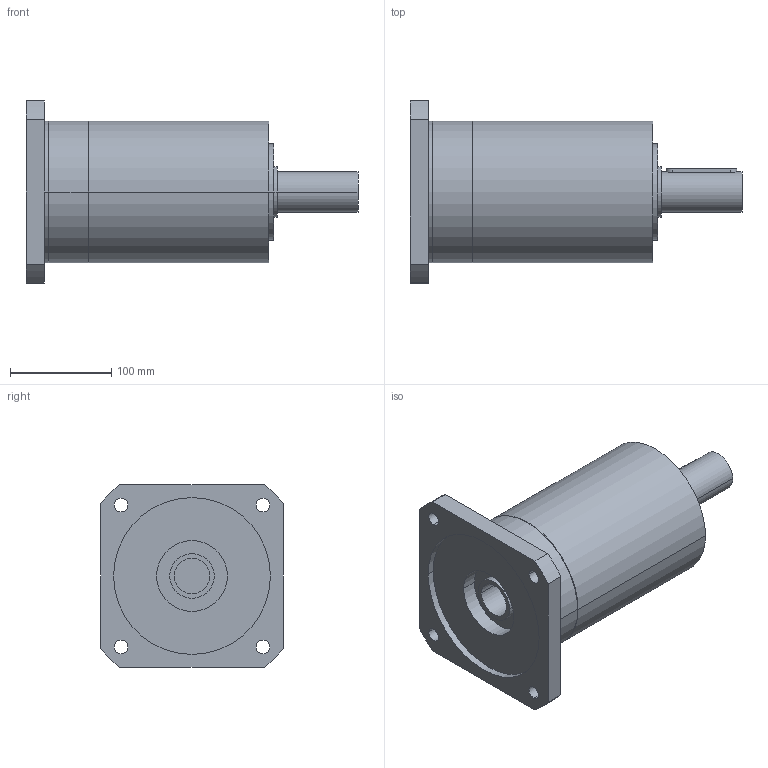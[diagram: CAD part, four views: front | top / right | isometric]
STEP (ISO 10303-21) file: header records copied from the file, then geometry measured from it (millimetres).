
FILE_DESCRIPTION(('CoCreate Modeling STEP Export'),'2;1');
FILE_NAME('GPR150_ig-9-12-16-20-28-35_40_B14_35_P11.stp','2014-08-19T17:04:20',(''),(''),'CoCreate Modeling STEP processor for AP214 (Solid Model)','CoCreate Modeling 16.00C 25-Feb-2009 (C) Parametric Technology GmbH','');
FILE_SCHEMA(('AUTOMOTIVE_DESIGN { 1 0 10303 214 1 1 1 1 }'));
Length unit declared in the file: millimetre
Products named in the file (2): GPR150_ig-9-12-16-20-28-35_40_B14_35_P11
Assembly tree (1 placements, depth 2):
  GPR150_ig-9-12-16-20-28-35_40_B14_35_P11
    GPR150_ig-9-12-16-20-28-35_40_B14_35_P11
Bounding box: 328 x 180 x 180 mm (x, y, z)
Volume: 3857747 mm3; surface area: 209519.3 mm2
Topology: 1 solids, 1 shells, 73 faces, 196 edges, 138 vertices
Faces by surface type: cylinder 44, plane 23, cone 6
Entity records: 2038 total; most frequent: CARTESIAN_POINT 396, ORIENTED_EDGE 388, DIRECTION 272, EDGE_CURVE 194, VERTEX_POINT 138, AXIS2_PLACEMENT_3D 102, EDGE_LOOP 96, FACE_OUTER_BOUND 73
